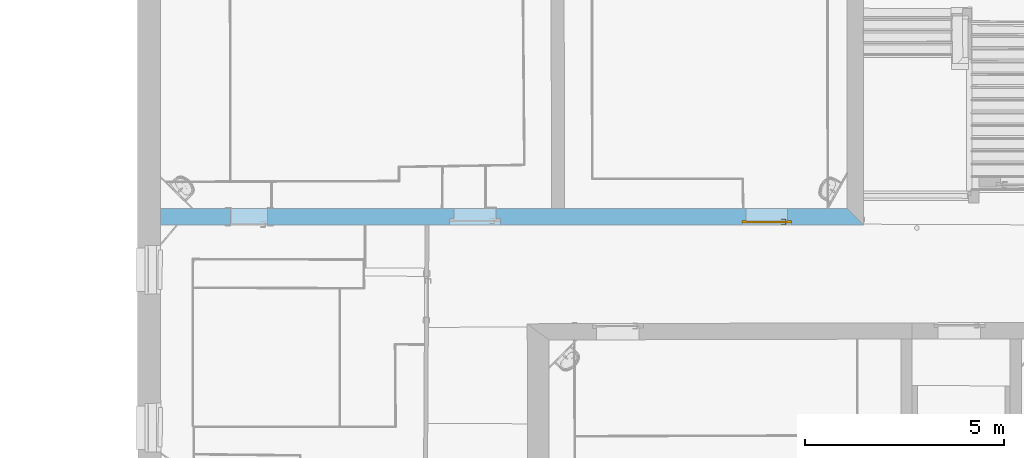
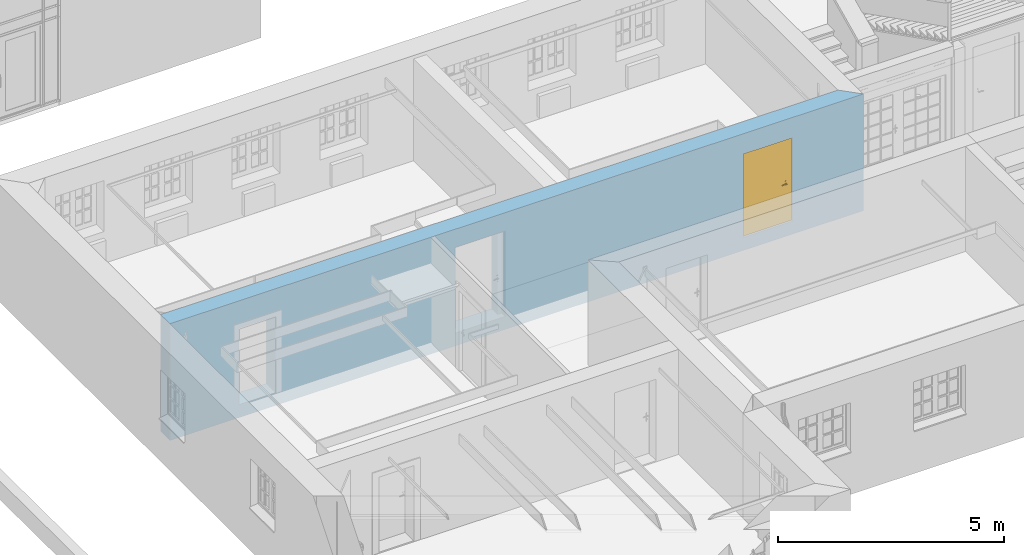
# One storey, part 73 of 196: 1 door, 3 openings, plus 1 element that does not belong to this part.
"""IFC2X3 building model written with IfcOpenShell, lengths in metres."""

from ifc_helpers import new_model, entity, si_unit, converted_unit, derived_unit, money_unit, direction, frame, origin_with_axes, origin_2d_with_axis, place, context, subcontext, project, spatial, polyline, rectangle, outline, extrude, faceted_brep, material, layer, layer_set, layer_usage, type_object, element, fill, save


model = new_model("IFC2X3")

# Units and contexts
model_context = context("Model", 3, precision=1e-05, world=origin_with_axes(), true_north=direction((0.0, 1.0)))
body_context = subcontext(model_context, "Body", "Model", "MODEL_VIEW")
ifc_project = project(units=[si_unit("LENGTHUNIT", "METRE"), si_unit("AREAUNIT", "SQUARE_METRE"), si_unit("VOLUMEUNIT", "CUBIC_METRE"), converted_unit("PLANEANGLEUNIT", "DEGREE", entity("IfcPlaneAngleMeasure", 0.0174532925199), si_unit("PLANEANGLEUNIT", "RADIAN"), dimensions=[0, 0, 0, 0, 0, 0, 0]), money_unit("EUR"), converted_unit("TIMEUNIT", "Year", entity("IfcTimeMeasure", 31556926.0), si_unit("TIMEUNIT", "SECOND"), dimensions=[0, 0, 1, 0, 0, 0, 0]), si_unit("MASSUNIT", "GRAM", prefix="KILO"), si_unit("THERMODYNAMICTEMPERATUREUNIT", "DEGREE_CELSIUS"), si_unit("LUMINOUSINTENSITYUNIT", "LUMEN"), si_unit("ENERGYUNIT", "JOULE", prefix="MEGA"), derived_unit("THERMALCONDUCTANCEUNIT", [(si_unit("POWERUNIT", "WATT"), 1), (si_unit("LENGTHUNIT", "METRE"), -1), (si_unit("THERMODYNAMICTEMPERATUREUNIT", "KELVIN"), -1)]), derived_unit("SPECIFICHEATCAPACITYUNIT", [(si_unit("ENERGYUNIT", "JOULE"), 1), (si_unit("MASSUNIT", "GRAM", prefix="KILO"), -1), (si_unit("THERMODYNAMICTEMPERATUREUNIT", "KELVIN"), -1)]), derived_unit("MASSDENSITYUNIT", [(si_unit("MASSUNIT", "GRAM", prefix="KILO"), 1), (si_unit("VOLUMEUNIT", "CUBIC_METRE"), -1)])], contexts=[model_context])

# Site, building, storey
site_placement = place(None, origin_with_axes())
site = spatial("IfcSite", under=ifc_project, at=site_placement, Name="Gelände", CompositionType="ELEMENT")
building_placement = place(site_placement, origin_with_axes())
building = spatial("IfcBuilding", under=site, at=building_placement, Name="Gebäude", CompositionType="ELEMENT")
storey_placement = place(building_placement, frame((0.0, 0.0, -3.0), z_axis=(0.0, 0.0, 1.0), x_axis=(1.0, 0.0, 0.0)))
storey = spatial("IfcBuildingStorey", under=building, at=storey_placement, Name="KELLERGESCHOSS", CompositionType="ELEMENT", Elevation=-3.0)

# Wall, openings, door
ifc_material = material(Name="05_ALLGEMEIN - TRAGENDE BAUTEILE")
ifc_layer = layer(ifc_material, 0.41, ventilated="UNKNOWN")
ifc_layer_set = layer_set([ifc_layer], Name="05_ALLGEMEIN - TRAGENDE BAUTEILE 0.41")
ifc_layer_usage = layer_usage(ifc_layer_set, "AXIS2", "POSITIVE", -0.41)
wall_type = type_object("IfcWallType", Name="05_ALLGEMEIN - TRAGENDE BAUTEILE 410", PredefinedType="ELEMENTEDWALL")
wall_placement = place(storey_placement, frame((-9.84148103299, 19.2659840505, -0.36), z_axis=(0.0, 0.0, 1.0), x_axis=(-0.999999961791, -0.000276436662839, 0.0)))
wall = element("IfcWallStandardCase", 1, at=wall_placement, inside=storey, type_object=wall_type, material=ifc_layer_usage, Name="Wand-036", ObjectType="ELEMENTEDWALL", context=body_context, shape_type="SweptSolid", body=[
    extrude(outline(polyline([(0.409925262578, -0.41), (17.7008366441, -0.41), (17.7005669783, 0.0), (0.0, 0.0), (0.409925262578, -0.41)])), origin_with_axes(), (0.0, 0.0, 1.0), 3.15),
])
opening_1_placement = place(wall_placement, frame((2.43435271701, 0.0, 0.34905591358), z_axis=(0.0, 0.0, 1.0), x_axis=(1.0, 0.0, 0.0)))
opening_1 = element("IfcOpeningElement", 2, at=opening_1_placement, cuts=wall, Name="Tür-022", context=body_context, shape_type="SweptSolid", body=[
    extrude(rectangle(XDim=1.05378116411, YDim=2.159205, at=origin_2d_with_axis()), frame((0.0, -0.11, 1.0796025), z_axis=(0.0, 1.0, 0.0), x_axis=(1.0, 0.0, 0.0)), (0.0, 0.0, -1.0), 0.71),
    extrude(rectangle(XDim=1.25378116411, YDim=2.259205, at=origin_2d_with_axis()), frame((0.0, -0.05, 1.1296025), z_axis=(0.0, -1.0, 0.0), x_axis=(1.0, 0.0, 0.0)), (0.0, 0.0, 1.0), 0.06),
    extrude(rectangle(XDim=1.25378116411, YDim=2.259205, at=origin_2d_with_axis()), frame((0.0, -0.05, 1.1296025), z_axis=(0.0, -1.0, 0.0), x_axis=(1.0, 0.0, 0.0)), (0.0, 0.0, -1.0), 0.46),
])
opening_2_placement = place(wall_placement, frame((9.78109364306, 0.0, 0.347304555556), z_axis=(0.0, 0.0, 1.0), x_axis=(1.0, 0.0, 0.0)))
element("IfcOpeningElement", 3, at=opening_2_placement, cuts=wall, Name="Tür-022", context=body_context, shape_type="SweptSolid", body=[
    extrude(rectangle(XDim=1.06444475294, YDim=2.200287, at=origin_2d_with_axis()), frame((0.0, -0.16, 1.1001435), z_axis=(0.0, 1.0, 0.0), x_axis=(1.0, 0.0, 0.0)), (0.0, 0.0, -1.0), 0.66),
    extrude(rectangle(XDim=1.28444475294, YDim=2.310287, at=origin_2d_with_axis()), frame((0.0, -0.08, 1.1551435), z_axis=(0.0, -1.0, 0.0), x_axis=(1.0, 0.0, 0.0)), (0.0, 0.0, -1.0), 0.49),
    extrude(rectangle(XDim=1.28444475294, YDim=2.310287, at=origin_2d_with_axis()), frame((0.0, -0.08, 1.1551435), z_axis=(0.0, -1.0, 0.0), x_axis=(1.0, 0.0, 0.0)), (0.0, 0.0, 1.0), 0.08),
])
opening_3_placement = place(wall_placement, frame((15.4703837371, 0.0, 0.347765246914), z_axis=(0.0, 0.0, 1.0), x_axis=(1.0, 0.0, 0.0)))
element("IfcOpeningElement", 4, at=opening_3_placement, cuts=wall, Name="Tür-022", context=body_context, shape_type="SweptSolid", body=[
    extrude(rectangle(XDim=0.929114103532, YDim=2.063068, at=origin_2d_with_axis()), frame((0.0, -0.41, 1.031534), z_axis=(0.0, 1.0, 0.0), x_axis=(1.0, 0.0, 0.0)), (0.0, 0.0, 1.0), 1.23),
])
door_style = type_object("IfcDoorStyle", Name="Blockrahmentür 1-Fl 25", ConstructionType="NOTDEFINED", OperationType="SINGLE_SWING_RIGHT", ParameterTakesPrecedence=False, Sizeable=False)
door_placement = place(opening_1_placement, frame((-0.526890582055, 0.0, 0.0), z_axis=(0.0, 0.0, 1.0), x_axis=(1.0, 0.0, 0.0)))
door = element("IfcDoor", 5, at=door_placement, inside=storey, type_object=door_style, Name="Tür-022", ObjectType="NOTDEFINED", OverallHeight=2.25921, OverallWidth=1.25378, context=body_context, shape_type="Brep", body=[
    faceted_brep([(1.15378116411, -0.11, 0.0), (1.15378116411, -0.093, 0.0), (1.15378116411, -0.093, 2.259205), (1.15378116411, -0.11, 2.259205), (1.05378116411, -0.11, 0.0), (1.05378116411, -0.093, 0.0), (1.05378116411, -0.093, 2.159205), (0.638990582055, -0.093, 2.159205), (0.526990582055, -0.093, 2.159205), (0.0, -0.093, 2.159205), (0.0, -0.093, 0.0), (-0.1, -0.093, 0.0), (-0.1, -0.093, 2.259205), (-0.1, -0.11, 2.259205), (-0.1, -0.11, 0.0), (0.0, -0.11, 0.0), (0.0, -0.11, 2.159205), (0.526990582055, -0.11, 2.159205), (0.638990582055, -0.11, 2.159205), (1.05378116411, -0.11, 2.159205)], [[[0, 1, 2, 3]], [[4, 5, 1, 0]], [[1, 5, 6, 7, 8, 9, 10, 11, 12, 2]], [[3, 2, 12, 13]], [[0, 3, 13, 14, 15, 16, 17, 18, 19, 4]], [[19, 6, 5, 4]], [[18, 7, 6, 19]], [[17, 8, 7, 18]], [[16, 9, 8, 17]], [[15, 10, 9, 16]], [[14, 11, 10, 15]], [[13, 12, 11, 14]]]),
    faceted_brep([(1.15378116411, -0.093, 0.0), (1.15378116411, -0.05, 0.0), (1.15378116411, -0.05, 2.259205), (1.15378116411, -0.093, 2.259205), (1.06578116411, -0.093, 0.0), (1.06578116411, -0.05, 0.0), (1.06578116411, -0.05, 2.171205), (0.626990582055, -0.05, 2.171205), (0.538990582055, -0.05, 2.171205), (-0.012, -0.05, 2.171205), (-0.012, -0.05, 0.0), (-0.1, -0.05, 0.0), (-0.1, -0.05, 2.259205), (-0.1, -0.093, 2.259205), (-0.1, -0.093, 0.0), (-0.012, -0.093, 0.0), (-0.012, -0.093, 2.171205), (0.538990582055, -0.093, 2.171205), (0.626990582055, -0.093, 2.171205), (1.06578116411, -0.093, 2.171205)], [[[0, 1, 2, 3]], [[4, 5, 1, 0]], [[1, 5, 6, 7, 8, 9, 10, 11, 12, 2]], [[3, 2, 12, 13]], [[0, 3, 13, 14, 15, 16, 17, 18, 19, 4]], [[19, 6, 5, 4]], [[18, 7, 6, 19]], [[17, 8, 7, 18]], [[16, 9, 8, 17]], [[15, 10, 9, 16]], [[14, 11, 10, 15]], [[13, 12, 11, 14]]]),
    faceted_brep([(1.06578116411, -0.05, 0.0), (-0.012, -0.05, 0.0), (-0.012, -0.05, 2.171205), (1.06578116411, -0.05, 2.171205), (1.06578116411, -0.093, 0.0), (-0.012, -0.093, 0.0), (-0.012, -0.093, 2.171205), (1.06578116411, -0.093, 2.171205)], [[[0, 1, 2, 3]], [[1, 0, 4, 5]], [[2, 1, 5, 6]], [[3, 2, 6, 7]], [[0, 3, 7, 4]], [[5, 4, 7, 6]]]),
    faceted_brep([(0.0432977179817, -0.133, 1.05647213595), (0.048, -0.133, 1.058), (0.048, -0.113, 1.058), (0.0432977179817, -0.113, 1.05647213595), (0.0403915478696, -0.133, 1.05247213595), (0.0403915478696, -0.133, 1.04752786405), (0.0432977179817, -0.133, 1.04352786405), (0.048, -0.133, 1.042), (0.0527022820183, -0.133, 1.04352786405), (0.0556084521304, -0.133, 1.04752786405), (0.0556084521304, -0.133, 1.05247213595), (0.0527022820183, -0.133, 1.05647213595), (0.0527022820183, -0.113, 1.05647213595), (0.048, -0.111, 1.06), (0.0421221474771, -0.111, 1.05809016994), (0.0403915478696, -0.113, 1.05247213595), (0.0403915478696, -0.113, 1.04752786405), (0.0432977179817, -0.113, 1.04352786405), (0.048, -0.113, 1.042), (0.0527022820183, -0.113, 1.04352786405), (0.0556084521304, -0.113, 1.04752786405), (0.0556084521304, -0.113, 1.05247213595), (0.0538778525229, -0.111, 1.05809016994), (0.048, -0.103, 1.06), (0.0421221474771, -0.103, 1.05809016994), (0.038489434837, -0.111, 1.05309016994), (0.038489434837, -0.111, 1.04690983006), (0.0421221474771, -0.111, 1.04190983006), (0.048, -0.111, 1.04), (0.0538778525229, -0.111, 1.04190983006), (0.0575105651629, -0.111, 1.04690983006), (0.0575105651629, -0.111, 1.05309016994), (0.0538778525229, -0.103, 1.05809016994), (0.0575105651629, -0.103, 1.05309016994), (0.0575105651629, -0.103, 1.04690983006), (0.0538778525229, -0.103, 1.04190983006), (0.048, -0.103, 1.04), (0.0421221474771, -0.103, 1.04190983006), (0.038489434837, -0.103, 1.04690983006), (0.038489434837, -0.103, 1.05309016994)], [[[0, 1, 2, 3]], [[1, 0, 4, 5, 6, 7, 8, 9, 10, 11]], [[1, 11, 12, 2]], [[3, 2, 13, 14]], [[4, 0, 3, 15]], [[5, 4, 15, 16]], [[6, 5, 16, 17]], [[7, 6, 17, 18]], [[8, 7, 18, 19]], [[9, 8, 19, 20]], [[10, 9, 20, 21]], [[11, 10, 21, 12]], [[2, 12, 22, 13]], [[14, 13, 23, 24]], [[15, 3, 14, 25]], [[16, 15, 25, 26]], [[17, 16, 26, 27]], [[18, 17, 27, 28]], [[19, 18, 28, 29]], [[20, 19, 29, 30]], [[21, 20, 30, 31]], [[12, 21, 31, 22]], [[13, 22, 32, 23]], [[23, 32, 33, 34, 35, 36, 37, 38, 39, 24]], [[25, 14, 24, 39]], [[26, 25, 39, 38]], [[27, 26, 38, 37]], [[28, 27, 37, 36]], [[29, 28, 36, 35]], [[30, 29, 35, 34]], [[31, 30, 34, 33]], [[22, 31, 33, 32]]]),
    faceted_brep([(0.0601883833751, -0.103, 1.11759695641), (0.0524435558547, -0.103, 1.12195567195), (0.0435564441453, -0.103, 1.12195567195), (0.0358116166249, -0.103, 1.11759695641), (0.0312, -0.103, 1.11), (0.0255, -0.103, 1.11), (0.0255, -0.103, 0.89), (0.0312, -0.103, 0.89), (0.0358116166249, -0.103, 0.882403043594), (0.0435564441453, -0.103, 0.878044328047), (0.0524435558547, -0.103, 0.878044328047), (0.0601883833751, -0.103, 0.882403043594), (0.0648, -0.103, 0.89), (0.0705, -0.103, 0.89), (0.0705, -0.103, 1.11), (0.0648, -0.103, 1.11), (0.048, -0.103, 0.967425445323), (0.0533751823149, -0.103, 0.965143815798), (0.0554678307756, -0.103, 0.959692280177), (0.053, -0.103, 0.9544), (0.053, -0.103, 0.9375), (0.0515355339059, -0.103, 0.933964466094), (0.048, -0.103, 0.9325), (0.0444644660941, -0.103, 0.933964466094), (0.043, -0.103, 0.9375), (0.043, -0.103, 0.9544), (0.0405321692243, -0.103, 0.959692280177), (0.042624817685, -0.103, 0.965143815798), (0.0601883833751, -0.093, 1.11759695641), (0.0524435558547, -0.093, 1.12195567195), (0.0435564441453, -0.093, 1.12195567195), (0.0358116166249, -0.093, 1.11759695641), (0.0312, -0.093, 1.11), (0.0255, -0.093, 1.11), (0.0255, -0.093, 0.89), (0.0312, -0.093, 0.89), (0.0358116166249, -0.093, 0.882403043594), (0.0435564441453, -0.093, 0.878044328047), (0.0524435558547, -0.093, 0.878044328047), (0.0601883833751, -0.093, 0.882403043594), (0.0648, -0.093, 0.89), (0.0705, -0.093, 0.89), (0.0705, -0.093, 1.11), (0.0648, -0.093, 1.11), (0.048, -0.093, 0.967425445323), (0.0533751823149, -0.093, 0.965143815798), (0.0554678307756, -0.093, 0.959692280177), (0.053, -0.093, 0.9544), (0.053, -0.093, 0.9375), (0.0515355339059, -0.093, 0.933964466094), (0.048, -0.093, 0.9325), (0.0444644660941, -0.093, 0.933964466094), (0.043, -0.093, 0.9375), (0.043, -0.093, 0.9544), (0.0405321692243, -0.093, 0.959692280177), (0.042624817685, -0.093, 0.965143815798)], [[[0, 1, 2, 3, 4, 5, 6, 7, 8, 9, 10, 11, 12, 13, 14, 15], [16, 17, 18, 19, 20, 21, 22, 23, 24, 25, 26, 27]], [[1, 0, 28, 29]], [[2, 1, 29, 30]], [[3, 2, 30, 31]], [[4, 3, 31, 32]], [[5, 4, 32, 33]], [[6, 5, 33, 34]], [[7, 6, 34, 35]], [[8, 7, 35, 36]], [[9, 8, 36, 37]], [[10, 9, 37, 38]], [[11, 10, 38, 39]], [[12, 11, 39, 40]], [[13, 12, 40, 41]], [[14, 13, 41, 42]], [[15, 14, 42, 43]], [[0, 15, 43, 28]], [[17, 16, 44, 45]], [[18, 17, 45, 46]], [[19, 18, 46, 47]], [[19, 47, 48, 20]], [[20, 48, 49, 21]], [[21, 49, 50, 22]], [[22, 50, 51, 23]], [[23, 51, 52, 24]], [[53, 25, 24, 52]], [[26, 25, 53, 54]], [[27, 26, 54, 55]], [[16, 27, 55, 44]], [[40, 39, 38, 37, 36, 35, 34, 33, 32, 31, 30, 29, 28, 43, 42, 41], [54, 53, 52, 51, 50, 49, 48, 47, 46, 45, 44, 55]]]),
    faceted_brep([(0.162253, -0.133, 1.057158), (0.162253, -0.148, 1.057158), (0.162254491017, -0.148, 1.05719388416), (0.162254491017, -0.133, 1.05719388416), (0.135225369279, -0.133, 1.06432652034), (0.135225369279, -0.148, 1.06432652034), (0.107397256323, -0.148, 1.06706086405), (0.0794912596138, -0.148, 1.06529002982), (0.052232, -0.148, 1.05906), (0.0458294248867, -0.148, 1.05976125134), (0.0403273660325, -0.148, 1.05641280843), (0.0380084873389, -0.148, 1.05040385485), (0.0398348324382, -0.148, 1.04422735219), (0.0450486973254, -0.148, 1.04044577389), (0.0514869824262, -0.148, 1.04062800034), (0.0564786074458, -0.148, 1.04469843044), (0.056458, -0.148, 1.044666), (0.0817467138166, -0.148, 1.05019878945), (0.107589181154, -0.148, 1.05171460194), (0.133351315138, -0.148, 1.04917624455), (0.158401, -0.148, 1.042646), (0.163944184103, -0.148, 1.04356849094), (0.16730572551, -0.148, 1.04807159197), (0.166614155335, -0.148, 1.05364829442), (0.166614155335, -0.133, 1.05364829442), (0.16730572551, -0.133, 1.04807159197), (0.163944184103, -0.133, 1.04356849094), (0.158401, -0.133, 1.042646), (0.133351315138, -0.133, 1.04917624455), (0.107589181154, -0.133, 1.05171460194), (0.0817467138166, -0.133, 1.05019878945), (0.056458, -0.133, 1.044666), (0.0564786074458, -0.133, 1.04469843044), (0.0514869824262, -0.133, 1.04062800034), (0.0450486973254, -0.133, 1.04044577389), (0.0398348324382, -0.133, 1.04422735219), (0.0380084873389, -0.133, 1.05040385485), (0.0403273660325, -0.133, 1.05641280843), (0.0458294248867, -0.133, 1.05976125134), (0.052232, -0.133, 1.05906), (0.0794912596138, -0.133, 1.06529002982), (0.107397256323, -0.133, 1.06706086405)], [[[0, 1, 2, 3]], [[4, 5, 1, 0]], [[1, 5, 6, 7, 8, 9, 10, 11, 12, 13, 14, 15, 16, 17, 18, 19, 20, 21, 22, 23, 2]], [[3, 2, 23, 24]], [[0, 3, 24, 25, 26, 27, 28, 29, 30, 31, 32, 33, 34, 35, 36, 37, 38, 39, 40, 41, 4]], [[41, 6, 5, 4]], [[40, 7, 6, 41]], [[39, 8, 7, 40]], [[38, 9, 8, 39]], [[37, 10, 9, 38]], [[36, 11, 10, 37]], [[35, 12, 11, 36]], [[34, 13, 12, 35]], [[33, 14, 13, 34]], [[32, 15, 14, 33]], [[31, 16, 15, 32]], [[30, 17, 16, 31]], [[29, 18, 17, 30]], [[28, 19, 18, 29]], [[27, 20, 19, 28]], [[26, 21, 20, 27]], [[25, 22, 21, 26]], [[24, 23, 22, 25]]]),
    faceted_brep([(0.0432977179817, -0.01, 1.05647213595), (0.0432977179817, -0.03, 1.05647213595), (0.048, -0.03, 1.058), (0.048, -0.01, 1.058), (0.0403915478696, -0.01, 1.05247213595), (0.0403915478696, -0.03, 1.05247213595), (0.0421221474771, -0.032, 1.05809016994), (0.048, -0.032, 1.06), (0.0527022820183, -0.03, 1.05647213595), (0.0527022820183, -0.01, 1.05647213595), (0.0556084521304, -0.01, 1.05247213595), (0.0556084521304, -0.01, 1.04752786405), (0.0527022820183, -0.01, 1.04352786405), (0.048, -0.01, 1.042), (0.0432977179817, -0.01, 1.04352786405), (0.0403915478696, -0.01, 1.04752786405), (0.0403915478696, -0.03, 1.04752786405), (0.038489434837, -0.032, 1.05309016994), (0.0421221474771, -0.04, 1.05809016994), (0.048, -0.04, 1.06), (0.0538778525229, -0.032, 1.05809016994), (0.0556084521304, -0.03, 1.05247213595), (0.0556084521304, -0.03, 1.04752786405), (0.0527022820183, -0.03, 1.04352786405), (0.048, -0.03, 1.042), (0.0432977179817, -0.03, 1.04352786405), (0.038489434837, -0.032, 1.04690983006), (0.038489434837, -0.04, 1.05309016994), (0.038489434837, -0.04, 1.04690983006), (0.0421221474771, -0.04, 1.04190983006), (0.048, -0.04, 1.04), (0.0538778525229, -0.04, 1.04190983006), (0.0575105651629, -0.04, 1.04690983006), (0.0575105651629, -0.04, 1.05309016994), (0.0538778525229, -0.04, 1.05809016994), (0.0575105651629, -0.032, 1.05309016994), (0.0575105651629, -0.032, 1.04690983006), (0.0538778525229, -0.032, 1.04190983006), (0.048, -0.032, 1.04), (0.0421221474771, -0.032, 1.04190983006)], [[[0, 1, 2, 3]], [[4, 5, 1, 0]], [[1, 6, 7, 2]], [[3, 2, 8, 9]], [[3, 9, 10, 11, 12, 13, 14, 15, 4, 0]], [[15, 16, 5, 4]], [[5, 17, 6, 1]], [[6, 18, 19, 7]], [[2, 7, 20, 8]], [[9, 8, 21, 10]], [[10, 21, 22, 11]], [[11, 22, 23, 12]], [[12, 23, 24, 13]], [[13, 24, 25, 14]], [[14, 25, 16, 15]], [[16, 26, 17, 5]], [[17, 27, 18, 6]], [[19, 18, 27, 28, 29, 30, 31, 32, 33, 34]], [[7, 19, 34, 20]], [[8, 20, 35, 21]], [[21, 35, 36, 22]], [[22, 36, 37, 23]], [[23, 37, 38, 24]], [[24, 38, 39, 25]], [[25, 39, 26, 16]], [[26, 28, 27, 17]], [[39, 29, 28, 26]], [[38, 30, 29, 39]], [[37, 31, 30, 38]], [[36, 32, 31, 37]], [[35, 33, 32, 36]], [[20, 34, 33, 35]]]),
    faceted_brep([(0.0601883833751, -0.05, 1.11759695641), (0.0524435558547, -0.05, 1.12195567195), (0.0435564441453, -0.05, 1.12195567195), (0.0358116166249, -0.05, 1.11759695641), (0.0312, -0.05, 1.11), (0.0255, -0.05, 1.11), (0.0255, -0.05, 0.89), (0.0312, -0.05, 0.89), (0.0358116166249, -0.05, 0.882403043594), (0.0435564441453, -0.05, 0.878044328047), (0.0524435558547, -0.05, 0.878044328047), (0.0601883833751, -0.05, 0.882403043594), (0.0648, -0.05, 0.89), (0.0705, -0.05, 0.89), (0.0705, -0.05, 1.11), (0.0648, -0.05, 1.11), (0.048, -0.05, 0.967425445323), (0.0533751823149, -0.05, 0.965143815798), (0.0554678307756, -0.05, 0.959692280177), (0.053, -0.05, 0.9544), (0.053, -0.05, 0.9375), (0.0515355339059, -0.05, 0.933964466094), (0.048, -0.05, 0.9325), (0.0444644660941, -0.05, 0.933964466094), (0.043, -0.05, 0.9375), (0.043, -0.05, 0.9544), (0.0405321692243, -0.05, 0.959692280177), (0.042624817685, -0.05, 0.965143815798), (0.0524435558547, -0.04, 1.12195567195), (0.0601883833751, -0.04, 1.11759695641), (0.0435564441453, -0.04, 1.12195567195), (0.0358116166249, -0.04, 1.11759695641), (0.0312, -0.04, 1.11), (0.0255, -0.04, 1.11), (0.0255, -0.04, 0.89), (0.0312, -0.04, 0.89), (0.0358116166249, -0.04, 0.882403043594), (0.0435564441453, -0.04, 0.878044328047), (0.0524435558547, -0.04, 0.878044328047), (0.0601883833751, -0.04, 0.882403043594), (0.0648, -0.04, 0.89), (0.0705, -0.04, 0.89), (0.0705, -0.04, 1.11), (0.0648, -0.04, 1.11), (0.048, -0.04, 0.967425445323), (0.0533751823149, -0.04, 0.965143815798), (0.0554678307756, -0.04, 0.959692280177), (0.053, -0.04, 0.9544), (0.053, -0.04, 0.9375), (0.0515355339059, -0.04, 0.933964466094), (0.048, -0.04, 0.9325), (0.0444644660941, -0.04, 0.933964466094), (0.043, -0.04, 0.9375), (0.043, -0.04, 0.9544), (0.0405321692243, -0.04, 0.959692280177), (0.042624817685, -0.04, 0.965143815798)], [[[0, 1, 2, 3, 4, 5, 6, 7, 8, 9, 10, 11, 12, 13, 14, 15], [16, 17, 18, 19, 20, 21, 22, 23, 24, 25, 26, 27]], [[28, 1, 0, 29]], [[30, 2, 1, 28]], [[31, 3, 2, 30]], [[32, 4, 3, 31]], [[33, 5, 4, 32]], [[34, 6, 5, 33]], [[35, 7, 6, 34]], [[36, 8, 7, 35]], [[37, 9, 8, 36]], [[38, 10, 9, 37]], [[39, 11, 10, 38]], [[40, 12, 11, 39]], [[41, 13, 12, 40]], [[42, 14, 13, 41]], [[43, 15, 14, 42]], [[29, 0, 15, 43]], [[17, 16, 44, 45]], [[18, 17, 45, 46]], [[19, 18, 46, 47]], [[19, 47, 48, 20]], [[20, 48, 49, 21]], [[21, 49, 50, 22]], [[22, 50, 51, 23]], [[23, 51, 52, 24]], [[53, 25, 24, 52]], [[26, 25, 53, 54]], [[27, 26, 54, 55]], [[16, 27, 55, 44]], [[40, 39, 38, 37, 36, 35, 34, 33, 32, 31, 30, 28, 29, 43, 42, 41], [54, 53, 52, 51, 50, 49, 48, 47, 46, 45, 44, 55]]]),
    faceted_brep([(0.162253, -0.01, 1.057158), (0.162254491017, -0.01, 1.05719388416), (0.162254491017, 0.005, 1.05719388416), (0.162253, 0.005, 1.057158), (0.135225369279, -0.01, 1.06432652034), (0.107397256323, -0.01, 1.06706086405), (0.0794912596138, -0.01, 1.06529002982), (0.052232, -0.01, 1.05906), (0.0458294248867, -0.01, 1.05976125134), (0.0403273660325, -0.01, 1.05641280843), (0.0380084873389, -0.01, 1.05040385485), (0.0398348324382, -0.01, 1.04422735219), (0.0450486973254, -0.01, 1.04044577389), (0.0514869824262, -0.01, 1.04062800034), (0.0564786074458, -0.01, 1.04469843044), (0.056458, -0.01, 1.044666), (0.0817467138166, -0.01, 1.05019878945), (0.107589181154, -0.01, 1.05171460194), (0.133351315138, -0.01, 1.04917624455), (0.158401, -0.01, 1.042646), (0.163944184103, -0.01, 1.04356849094), (0.16730572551, -0.01, 1.04807159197), (0.166614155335, -0.01, 1.05364829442), (0.166614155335, 0.005, 1.05364829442), (0.16730572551, 0.005, 1.04807159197), (0.163944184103, 0.005, 1.04356849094), (0.158401, 0.005, 1.042646), (0.133351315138, 0.005, 1.04917624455), (0.107589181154, 0.005, 1.05171460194), (0.0817467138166, 0.005, 1.05019878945), (0.056458, 0.005, 1.044666), (0.0564786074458, 0.005, 1.04469843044), (0.0514869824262, 0.005, 1.04062800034), (0.0450486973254, 0.005, 1.04044577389), (0.0398348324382, 0.005, 1.04422735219), (0.0380084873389, 0.005, 1.05040385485), (0.0403273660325, 0.005, 1.05641280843), (0.0458294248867, 0.005, 1.05976125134), (0.052232, 0.005, 1.05906), (0.0794912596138, 0.005, 1.06529002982), (0.107397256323, 0.005, 1.06706086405), (0.135225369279, 0.005, 1.06432652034)], [[[0, 1, 2, 3]], [[0, 4, 5, 6, 7, 8, 9, 10, 11, 12, 13, 14, 15, 16, 17, 18, 19, 20, 21, 22, 1]], [[1, 22, 23, 2]], [[3, 2, 23, 24, 25, 26, 27, 28, 29, 30, 31, 32, 33, 34, 35, 36, 37, 38, 39, 40, 41]], [[4, 0, 3, 41]], [[5, 4, 41, 40]], [[6, 5, 40, 39]], [[7, 6, 39, 38]], [[8, 7, 38, 37]], [[9, 8, 37, 36]], [[10, 9, 36, 35]], [[11, 10, 35, 34]], [[12, 11, 34, 33]], [[13, 12, 33, 32]], [[14, 13, 32, 31]], [[15, 14, 31, 30]], [[16, 15, 30, 29]], [[17, 16, 29, 28]], [[18, 17, 28, 27]], [[19, 18, 27, 26]], [[20, 19, 26, 25]], [[21, 20, 25, 24]], [[22, 21, 24, 23]]]),
])
fill(opening_1, door)

save(model, "model.ifc")
